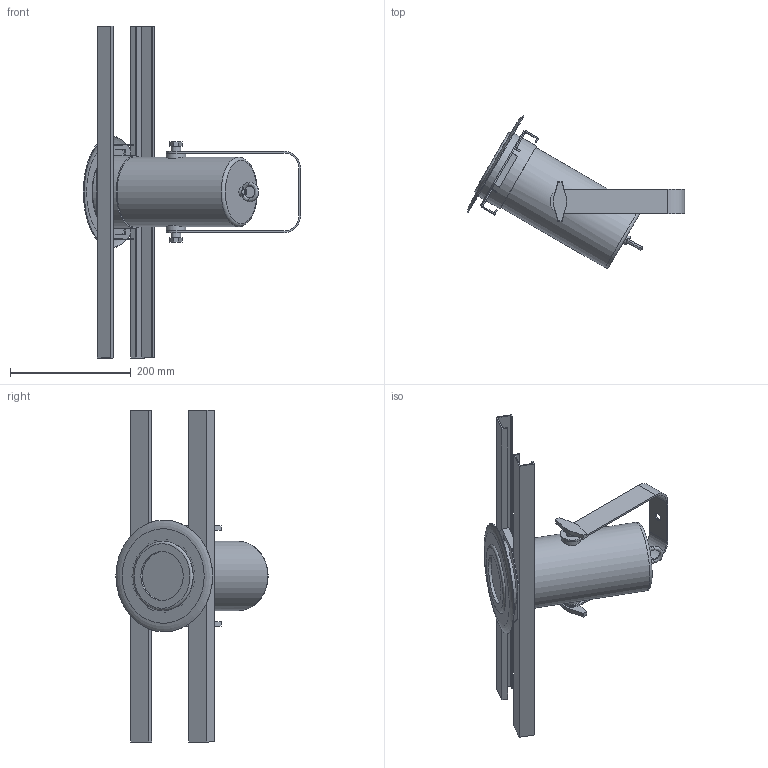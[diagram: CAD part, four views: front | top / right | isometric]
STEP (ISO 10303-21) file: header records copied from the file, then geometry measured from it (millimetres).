
FILE_DESCRIPTION(/* description */ (''),/* implementation_level */ '2;1');
FILE_NAME(/* name */ 'D:/dgooch/Documents/CADENG/PRO/Ovation H-55WW/30/3D/Ovation H-55WW_W_Install_Bracket_30.step',/* time_stamp */ '2019-11-13T10:16:08-05:00',/* author */ (''),/* organization */ (''),/* preprocessor_version */ 'ST-DEVELOPER v18',/* originating_system */ 'Autodesk Translation Framework v8.12.0.6',/* authorisation */ '');
FILE_SCHEMA (('AUTOMOTIVE_DESIGN { 1 0 10303 214 3 1 1 }'));
Length unit declared in the file: millimetre
Products named in the file (5): Ovation Mini Houselight; Bracket; Mian; Install_Bracket; Ring
Assembly tree (4 placements, depth 3):
  Ovation Mini Houselight
    Bracket
    Mian
      Install_Bracket
      Ring
Bounding box: 359.91 x 252.28 x 550 mm (x, y, z)
Volume: 2959832.3 mm3; surface area: 407897.2 mm2
Topology: 4 solids, 4 shells, 141 faces, 361 edges, 234 vertices
Faces by surface type: plane 100, cylinder 18, cone 12, bspline 6, torus 5
Full cylindrical faces by diameter (mm): 8.1 x2, 13 x1, 15.3 x1, 32.439 x2, 81 x1, 114.646 x1, 115 x1, 120 x1
Entity records: 6220 total; most frequent: CARTESIAN_POINT 2655, ORIENTED_EDGE 722, DIRECTION 702, EDGE_CURVE 361, LINE 244, VECTOR 244, VERTEX_POINT 234, AXIS2_PLACEMENT_3D 229
